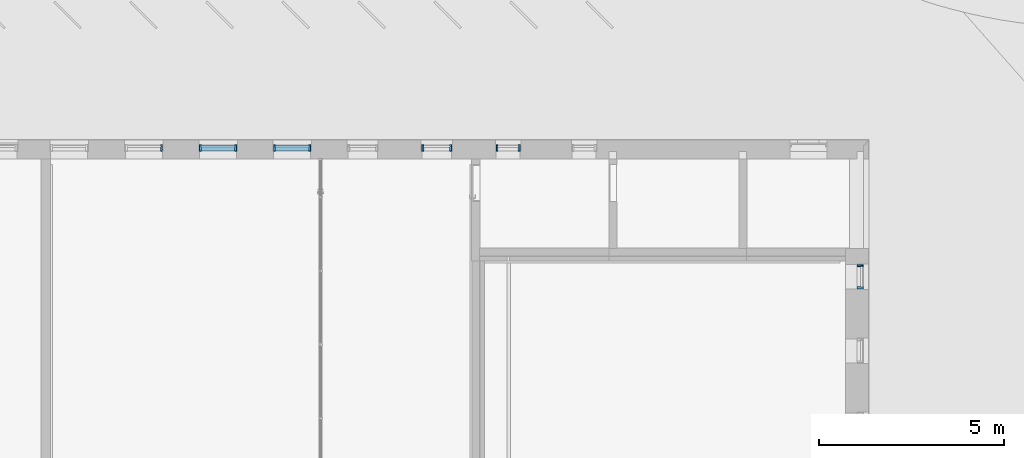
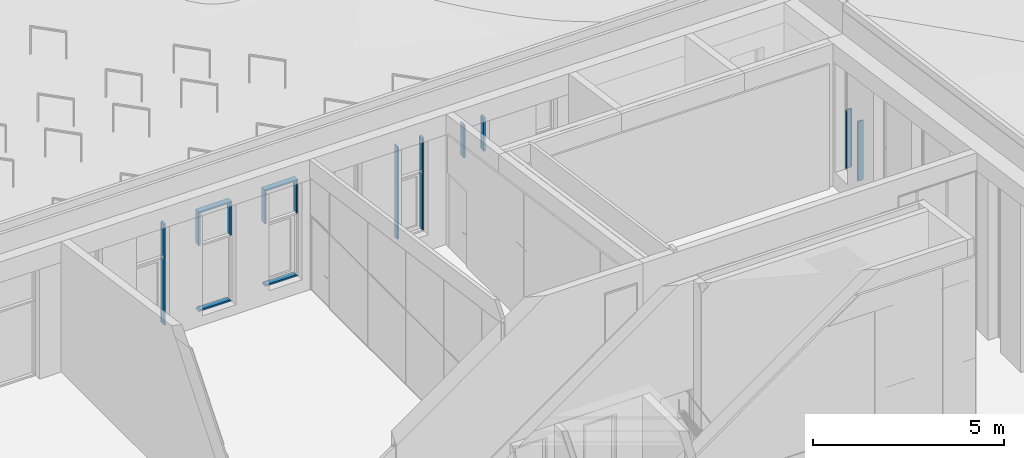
# One storey, part 21 of 246: 18 members, 6 elements without a shape of their own.
"""IFC2X3 building model written with IfcOpenShell, lengths in millimetres."""

from ifc_helpers import new_model, entity, si_unit, converted_unit, derived_unit, money_unit, direction, frame, origin_with_axes, place, context, subcontext, project, spatial, faceted_brep, source, transform, mapped, material, type_object, element, aggregate, save


model = new_model("IFC2X3")

# Units and contexts
model_context = context("Model", 3, precision=0.01, world=origin_with_axes(), true_north=direction((0.0, 1.0)))
body_context = subcontext(model_context, "Body", "Model", "MODEL_VIEW")
ifc_project = project(units=[si_unit("LENGTHUNIT", "METRE", prefix="MILLI"), si_unit("AREAUNIT", "SQUARE_METRE"), si_unit("VOLUMEUNIT", "CUBIC_METRE"), converted_unit("PLANEANGLEUNIT", "DEGREE", entity("IfcPlaneAngleMeasure", 0.0174532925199), si_unit("PLANEANGLEUNIT", "RADIAN"), dimensions=[0, 0, 0, 0, 0, 0, 0]), si_unit("SOLIDANGLEUNIT", "STERADIAN"), money_unit("EUR"), converted_unit("TIMEUNIT", "Year", entity("IfcTimeMeasure", 31556926.0), si_unit("TIMEUNIT", "SECOND"), dimensions=[0, 0, 1, 0, 0, 0, 0]), si_unit("MASSUNIT", "GRAM", prefix="KILO"), si_unit("THERMODYNAMICTEMPERATUREUNIT", "DEGREE_CELSIUS"), si_unit("LUMINOUSINTENSITYUNIT", "LUMEN"), si_unit("ENERGYUNIT", "JOULE", prefix="MEGA"), derived_unit("THERMALCONDUCTANCEUNIT", [(si_unit("POWERUNIT", "WATT"), 1), (si_unit("LENGTHUNIT", "METRE"), -1), (si_unit("THERMODYNAMICTEMPERATUREUNIT", "KELVIN"), -1)]), derived_unit("SPECIFICHEATCAPACITYUNIT", [(si_unit("ENERGYUNIT", "JOULE"), 1), (si_unit("MASSUNIT", "GRAM", prefix="KILO"), -1), (si_unit("THERMODYNAMICTEMPERATUREUNIT", "KELVIN"), -1)]), derived_unit("MASSDENSITYUNIT", [(si_unit("MASSUNIT", "GRAM", prefix="KILO"), 1), (si_unit("VOLUMEUNIT", "CUBIC_METRE"), -1)])], contexts=[model_context])

# Site, building, storey
site_placement = place(None, origin_with_axes())
site = spatial("IfcSite", under=ifc_project, at=site_placement, Name="L.Koidula tn 11b", CompositionType="ELEMENT")
building_placement = place(site_placement, origin_with_axes())
building = spatial("IfcBuilding", under=site, at=building_placement, Name="Rakvere Riigigümnaasium", CompositionType="ELEMENT")
storey_placement = place(building_placement, origin_with_axes())
storey = spatial("IfcBuildingStorey", under=building, at=storey_placement, Name="1.korrus 0,00", CompositionType="ELEMENT", Elevation=0.0)

# Curtain wall, member
curtain_wall_type = type_object("IfcCurtainWallType", Name="Curtain Wall Type", PredefinedType="NOTDEFINED")
curtain_wall_1_placement = place(storey_placement, frame((35969.5353612, 71934.4519938, 500.0), z_axis=(0.0, 0.0, 1.0), x_axis=(1.0, 0.0, 0.0)))
curtain_wall_1 = element("IfcCurtainWall", 1, at=curtain_wall_1_placement, inside=storey, type_object=curtain_wall_type, Name="KLF-08-08")
ifc_material = material(Name="Alumiiniumprofiil (RAL 7021)")
member_type = type_object("IfcMemberType", Name="Boundary Frame 50 x 170", PredefinedType="MULLION")
shared_shape_1 = source(origin_with_axes(), body_context, "Body", "Brep", [
    faceted_brep([(-37.0, -26.0, 1042.99989822), (-50.0, -26.0, 1029.99989822), (-50.0, -124.0, 1029.99989822), (0.0, -124.0, 1079.99989822), (0.0, 46.0, 1079.99989822), (-50.0, 46.0, 1029.99989822), (-50.0, 26.0, 1029.99989822), (-37.0, 26.0, 1042.99989822), (-37.0, -26.0, -2.46072051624e-08), (-50.0, -26.0, -2.46072051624e-08), (-50.0, -124.0, -2.46072051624e-08), (0.0, -124.0, -2.46072051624e-08), (0.0, 46.0, -2.46072051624e-08), (-50.0, 46.0, -2.46072051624e-08), (-50.0, 26.0, -2.46072051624e-08), (-37.0, 26.0, -2.46072051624e-08)], [[[0, 1, 2, 3, 4, 5, 6, 7]], [[0, 8, 9, 1]], [[9, 10, 2, 1]], [[10, 11, 3, 2]], [[11, 12, 4, 3]], [[12, 13, 5, 4]], [[6, 5, 13, 14]], [[14, 15, 7, 6]], [[7, 15, 8, 0]], [[8, 15, 14, 13, 12, 11, 10, 9]]]),
])
member_1_placement = place(curtain_wall_1_placement, frame((400.000059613, 0.0, 1900.00011279), z_axis=(0.0, 0.0, 1.0), x_axis=(-1.0, 0.0, 0.0)))
member_1 = element("IfcMember", 2, at=member_1_placement, type_object=member_type, material=ifc_material, Name="KLF-08-44-Profiilid", ObjectType="MULLION", context=body_context, shape_type="MappedRepresentation", body=[
    mapped(shared_shape_1, transform((0.0, 0.0, 0.0), x_axis=(-1.0, 0.0, 0.0), y_axis=(0.0, -1.0, 0.0), z_axis=(0.0, 0.0, 1.0))),
])

curtain_wall_2_placement = place(storey_placement, frame((32069.763958, 71934.4519938, 400.0), z_axis=(0.0, 0.0, 1.0), x_axis=(1.0, 0.0, 0.0)))
curtain_wall_2 = element("IfcCurtainWall", 3, at=curtain_wall_2_placement, inside=storey, type_object=curtain_wall_type, Name="KLF-08-06")
member_2_placement = place(curtain_wall_2_placement, frame((500.007695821, 0.0, 2000.00007713), z_axis=(0.0, 0.0, 1.0), x_axis=(-1.0, 0.0, 0.0)))
member_2 = element("IfcMember", 4, at=member_2_placement, type_object=member_type, material=ifc_material, Name="KLF-08-62-Profiilid", ObjectType="MULLION", context=body_context, shape_type="MappedRepresentation", body=[
    mapped(shared_shape_1, transform((0.0, 0.0, 0.0), x_axis=(-1.0, 0.0, 0.0), y_axis=(0.0, -1.0, 0.0), z_axis=(0.0, 0.0, 1.0))),
])

curtain_wall_3_placement = place(storey_placement, frame((28069.5354311, 71934.4519938, 200.0), z_axis=(0.0, 0.0, 1.0), x_axis=(1.0, 0.0, 0.0)))
curtain_wall_3 = element("IfcCurtainWall", 5, at=curtain_wall_3_placement, inside=storey, type_object=curtain_wall_type, Name="KLF-08-04")
member_3_placement = place(curtain_wall_3_placement, frame((500.000022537, 0.0, 2200.00007713), z_axis=(0.0, 0.0, 1.0), x_axis=(-1.0, 0.0, 0.0)))
member_3 = element("IfcMember", 6, at=member_3_placement, type_object=member_type, material=ifc_material, Name="KLF-08-45-Profiilid", ObjectType="MULLION", context=body_context, shape_type="MappedRepresentation", body=[
    mapped(shared_shape_1, transform((0.0, 0.0, 0.0), x_axis=(-1.0, 0.0, 0.0), y_axis=(0.0, -1.0, 0.0), z_axis=(0.0, 0.0, 1.0))),
])

curtain_wall_4_placement = place(storey_placement, frame((30069.5242165, 71934.4519938, 300.0), z_axis=(0.0, 0.0, 1.0), x_axis=(1.0, 0.0, 0.0)))
curtain_wall_4 = element("IfcCurtainWall", 7, at=curtain_wall_4_placement, inside=storey, type_object=curtain_wall_type, Name="KLF-08-05")
member_4_placement = place(curtain_wall_4_placement, frame((499.988788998, 0.0, 2100.00007713), z_axis=(0.0, 0.0, 1.0), x_axis=(-1.0, 0.0, 0.0)))
member_4 = element("IfcMember", 8, at=member_4_placement, type_object=member_type, material=ifc_material, Name="KLF-08-82-Profiilid", ObjectType="MULLION", context=body_context, shape_type="MappedRepresentation", body=[
    mapped(shared_shape_1, transform((0.0, 0.0, 0.0), x_axis=(-1.0, 0.0, 0.0), y_axis=(0.0, -1.0, 0.0), z_axis=(0.0, 0.0, 1.0))),
])

curtain_wall_5_placement = place(storey_placement, frame((37894.5353831, 71934.4519938, 550.0), z_axis=(0.0, 0.0, 1.0), x_axis=(1.0, 0.0, 0.0)))
curtain_wall_5 = element("IfcCurtainWall", 9, at=curtain_wall_5_placement, inside=storey, type_object=curtain_wall_type, Name="KLF-08-09")
member_5_placement = place(curtain_wall_5_placement, frame((325.000084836, 0.0, 1850.00012484), z_axis=(0.0, 0.0, 1.0), x_axis=(-1.0, 0.0, 0.0)))
member_5 = element("IfcMember", 10, at=member_5_placement, type_object=member_type, material=ifc_material, Name="KLF-08-45-Profiilid", ObjectType="MULLION", context=body_context, shape_type="MappedRepresentation", body=[
    mapped(shared_shape_1, transform((0.0, 0.0, 0.0), x_axis=(-1.0, 0.0, 0.0), y_axis=(0.0, -1.0, 0.0), z_axis=(0.0, 0.0, 1.0))),
])

# Member
shared_shape_2 = source(origin_with_axes(), body_context, "Body", "Brep", [
    faceted_brep([(37.0, -26.0, 1043.00003141), (37.0, 26.0, 1043.00003141), (50.0, 26.0, 1030.00003141), (50.0, 46.0, 1030.00003141), (0.0, 46.0, 1080.00003141), (0.0, -124.0, 1080.00003141), (50.0, -124.0, 1030.00003141), (50.0, -26.0, 1030.00003141), (37.0, -26.0, 0.0), (37.0, 26.0, 0.0), (50.0, 26.0, 0.0), (50.0, 46.0, 0.0), (0.0, 46.0, 0.0), (0.0, -124.0, 0.0), (50.0, -124.0, 0.0), (50.0, -26.0, 0.0)], [[[0, 1, 2, 3, 4, 5, 6, 7]], [[1, 0, 8, 9]], [[10, 2, 1, 9]], [[2, 10, 11, 3]], [[12, 4, 3, 11]], [[13, 5, 4, 12]], [[14, 6, 5, 13]], [[15, 7, 6, 14]], [[0, 7, 15, 8]], [[8, 15, 14, 13, 12, 11, 10, 9]]]),
])
member_6_placement = place(curtain_wall_4_placement, frame((-499.988788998, 0.0, 2100.00007713), z_axis=(0.0, 0.0, 1.0), x_axis=(-1.0, 0.0, 0.0)))
member_6 = element("IfcMember", 11, at=member_6_placement, type_object=member_type, material=ifc_material, Name="KLF-08-84-Profiilid", ObjectType="MULLION", context=body_context, shape_type="MappedRepresentation", body=[
    mapped(shared_shape_2, transform((0.0, 0.0, 0.0), x_axis=(-1.0, 0.0, 0.0), y_axis=(0.0, -1.0, 0.0), z_axis=(0.0, 0.0, 1.0))),
])

shared_shape_3 = source(origin_with_axes(), body_context, "Body", "Brep", [
    faceted_brep([(-37.0, -26.0, 1079.99989843), (-50.0, -26.0, 1079.99989843), (-50.0, -124.0, 1079.99989843), (0.0, -124.0, 1079.99989843), (0.0, 46.0, 1079.99989843), (-50.0, 46.0, 1079.99989843), (-50.0, 26.0, 1079.99989843), (-37.0, 26.0, 1079.99989843), (-37.0, -26.0, 36.9999996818), (-50.0, -26.0, 49.99999957), (-50.0, -124.0, 49.99999957), (0.0, -124.0, 0.0), (0.0, 46.0, 0.0), (-50.0, 46.0, 49.99999957), (-50.0, 26.0, 49.99999957), (-37.0, 26.0, 36.9999996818)], [[[0, 1, 2, 3, 4, 5, 6, 7]], [[0, 8, 9, 1]], [[9, 10, 2, 1]], [[2, 10, 11, 3]], [[3, 11, 12, 4]], [[4, 12, 13, 5]], [[6, 5, 13, 14]], [[14, 15, 7, 6]], [[7, 15, 8, 0]], [[8, 15, 14, 13, 12, 11, 10, 9]]]),
])
member_7_placement = place(curtain_wall_1_placement, frame((-400.000054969, 0.0, 2980.00001101), z_axis=(-8.60067982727e-09, 0.0, -1.0), x_axis=(1.0, 0.0, -8.60067982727e-09)))
member_7 = element("IfcMember", 12, at=member_7_placement, type_object=member_type, material=ifc_material, Name="KLF-08-46-Profiilid", ObjectType="MULLION", context=body_context, shape_type="MappedRepresentation", body=[
    mapped(shared_shape_3, transform((0.0, 0.0, 0.0), x_axis=(-1.0, 0.0, 8.6006797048e-09), y_axis=(0.0, -1.0, 0.0), z_axis=(8.6006797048e-09, 0.0, 1.0))),
])

member_8_placement = place(curtain_wall_2_placement, frame((-500.007699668, 0.0, 3080.00001331), z_axis=(7.12447098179e-09, 0.0, -1.0), x_axis=(1.0, 0.0, 7.12447098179e-09)))
member_8 = element("IfcMember", 13, at=member_8_placement, type_object=member_type, material=ifc_material, Name="KLF-08-64-Profiilid", ObjectType="MULLION", context=body_context, shape_type="MappedRepresentation", body=[
    mapped(shared_shape_3, transform((0.0, 0.0, 0.0), x_axis=(-1.0, 0.0, -7.12447110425e-09), y_axis=(0.0, -1.0, 0.0), z_axis=(-7.12447110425e-09, 0.0, 1.0))),
])

member_9_placement = place(curtain_wall_5_placement, frame((-325.000075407, 0.0, 2929.99988915), z_axis=(-1.74605191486e-08, 0.0, -1.0), x_axis=(1.0, 0.0, -1.74605191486e-08)))
member_9 = element("IfcMember", 14, at=member_9_placement, type_object=member_type, material=ifc_material, Name="KLF-08-47-Profiilid", ObjectType="MULLION", context=body_context, shape_type="MappedRepresentation", body=[
    mapped(shared_shape_3, transform((0.0, 0.0, 0.0), x_axis=(-1.0, 0.0, 1.74605190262e-08), y_axis=(0.0, -1.0, 0.0), z_axis=(1.74605190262e-08, 0.0, 1.0))),
])

aggregate(curtain_wall_5, [member_9, member_5])

shared_shape_4 = source(origin_with_axes(), body_context, "Body", "Brep", [
    faceted_brep([(-37.0, -26.0, 1863.00011279), (-50.0, -26.0, 1850.00011279), (-50.0, -124.0, 1850.00011279), (0.0, -124.0, 1900.00011279), (0.0, 46.0, 1900.00011279), (-50.0, 46.0, 1850.00011279), (-50.0, 26.0, 1850.00011279), (-37.0, 26.0, 1863.00011279), (-37.0, -26.0, -2.15017115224e-07), (-50.0, -26.0, -2.15017004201e-07), (-50.0, -124.0, -2.15017004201e-07), (0.0, -124.0, -2.15017004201e-07), (0.0, 46.0, -2.15017004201e-07), (-50.0, 46.0, -2.15017004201e-07), (-50.0, 26.0, -2.15017004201e-07), (-37.0, 26.0, -2.15017115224e-07)], [[[0, 1, 2, 3, 4, 5, 6, 7]], [[0, 8, 9, 1]], [[9, 10, 2, 1]], [[10, 11, 3, 2]], [[11, 12, 4, 3]], [[12, 13, 5, 4]], [[6, 5, 13, 14]], [[14, 15, 7, 6]], [[7, 15, 8, 0]], [[8, 15, 14, 13, 12, 11, 10, 9]]]),
])
member_10_placement = place(curtain_wall_1_placement, frame((-400.000064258, 0.0, 1900.00011279), z_axis=(0.0, 0.0, -1.0), x_axis=(1.0, 0.0, 0.0)))
member_10 = element("IfcMember", 15, at=member_10_placement, type_object=member_type, material=ifc_material, Name="KLF-08-41-Profiilid", ObjectType="MULLION", context=body_context, shape_type="MappedRepresentation", body=[
    mapped(shared_shape_4, transform((0.0, 0.0, 0.0), x_axis=(-1.0, 0.0, 0.0), y_axis=(0.0, -1.0, 0.0), z_axis=(0.0, 0.0, 1.0))),
])

# Curtain wall, member
curtain_wall_6_placement = place(storey_placement, frame((47433.9999935, 68420.4546651, 500.0), z_axis=(0.0, 0.0, 1.0), x_axis=(1.0, 0.0, 0.0)))
curtain_wall_6 = element("IfcCurtainWall", 16, at=curtain_wall_6_placement, inside=storey, type_object=curtain_wall_type, Name="KLF-07-14")
member_11_placement = place(curtain_wall_6_placement, frame((0.0, 325.000053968, 1900.0), z_axis=(0.0, 2.7834995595e-08, -1.0), x_axis=(0.0, -1.0, -2.7834995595e-08)))
member_11 = element("IfcMember", 17, at=member_11_placement, type_object=member_type, material=ifc_material, Name="KLF-07-91-Profiilid", ObjectType="MULLION", context=body_context, shape_type="MappedRepresentation", body=[
    mapped(shared_shape_4, transform((0.0, 0.0, 0.0), x_axis=(-1.0, 0.0, 2.78349954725e-08), y_axis=(0.0, -1.0, 0.0), z_axis=(2.78349954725e-08, 0.0, 1.0))),
])

# Member
shared_shape_5 = source(origin_with_axes(), body_context, "Body", "Brep", [
    faceted_brep([(-37.0, -26.0, 1900.00011282), (-50.0, -26.0, 1900.00011282), (-50.0, -124.0, 1900.00011282), (0.0, -124.0, 1900.00011282), (0.0, 46.0, 1900.00011282), (-50.0, 46.0, 1900.00011282), (-50.0, 26.0, 1900.00011282), (-37.0, 26.0, 1900.00011282), (-37.0, -26.0, 37.0000000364), (-50.0, -26.0, 50.0000000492), (-50.0, -124.0, 50.0000000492), (0.0, -124.0, 0.0), (0.0, 46.0, 0.0), (-50.0, 46.0, 50.0000000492), (-50.0, 26.0, 50.0000000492), (-37.0, 26.0, 37.0000000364)], [[[0, 1, 2, 3, 4, 5, 6, 7]], [[0, 8, 9, 1]], [[9, 10, 2, 1]], [[2, 10, 11, 3]], [[3, 11, 12, 4]], [[4, 12, 13, 5]], [[6, 5, 13, 14]], [[14, 15, 7, 6]], [[7, 15, 8, 0]], [[8, 15, 14, 13, 12, 11, 10, 9]]]),
])
member_12_placement = place(curtain_wall_1_placement, frame((400.000061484, 0.0, 0.0), z_axis=(-9.84288615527e-10, 0.0, 1.0), x_axis=(-1.0, 0.0, -9.84288615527e-10)))
member_12 = element("IfcMember", 18, at=member_12_placement, type_object=member_type, material=ifc_material, Name="KLF-08-43-Profiilid", ObjectType="MULLION", context=body_context, shape_type="MappedRepresentation", body=[
    mapped(shared_shape_5, transform((0.0, 0.0, 0.0), x_axis=(-1.0, 0.0, -9.84288615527e-10), y_axis=(0.0, -1.0, 0.0), z_axis=(-9.84288615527e-10, 0.0, 1.0))),
])

aggregate(curtain_wall_1, [member_7, member_10, member_1, member_12])

member_13_placement = place(curtain_wall_6_placement, frame((0.0, -325.000397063, 0.0), z_axis=(0.0, 1.25084952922e-07, 1.0), x_axis=(0.0, 1.0, -1.25084952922e-07)))
member_13 = element("IfcMember", 19, at=member_13_placement, type_object=member_type, material=ifc_material, Name="KLF-07-87-Profiilid", ObjectType="MULLION", context=body_context, shape_type="MappedRepresentation", body=[
    mapped(shared_shape_5, transform((0.0, 0.0, 0.0), x_axis=(-1.0, 0.0, -1.25084952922e-07), y_axis=(0.0, -1.0, 0.0), z_axis=(-1.25084952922e-07, 0.0, 1.0))),
])

aggregate(curtain_wall_6, [member_13, member_11])

shared_shape_6 = source(origin_with_axes(), body_context, "Body", "Brep", [
    faceted_brep([(-37.0, -26.0, 963.015395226), (-50.0, -26.0, 950.015395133), (-50.0, -124.0, 950.015395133), (0.0, -124.0, 1000.01539549), (0.0, 46.0, 1000.01539549), (-50.0, 46.0, 950.015395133), (-50.0, 26.0, 950.015395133), (-37.0, 26.0, 963.015395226), (-37.0, -26.0, 37.0), (-50.0, -26.0, 50.0), (-50.0, -124.0, 50.0), (0.0, -124.0, 0.0), (0.0, 46.0, 0.0), (-50.0, 46.0, 50.0), (-50.0, 26.0, 50.0), (-37.0, 26.0, 37.0)], [[[0, 1, 2, 3, 4, 5, 6, 7]], [[0, 8, 9, 1]], [[9, 10, 2, 1]], [[2, 10, 11, 3]], [[3, 11, 12, 4]], [[4, 12, 13, 5]], [[6, 5, 13, 14]], [[14, 15, 7, 6]], [[7, 15, 8, 0]], [[8, 15, 14, 13, 12, 11, 10, 9]]]),
])
member_14_placement = place(curtain_wall_2_placement, frame((500.007695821, 0.0, 3080.00001331), z_axis=(-1.0, 0.0, 0.0), x_axis=(0.0, 0.0, -1.0)))
member_14 = element("IfcMember", 20, at=member_14_placement, type_object=member_type, material=ifc_material, Name="KLF-08-63-Profiilid", ObjectType="MULLION", context=body_context, shape_type="MappedRepresentation", body=[
    mapped(shared_shape_6, transform((0.0, 0.0, 0.0), x_axis=(-1.0, 0.0, 0.0), y_axis=(0.0, -1.0, 0.0), z_axis=(0.0, 0.0, 1.0))),
])

member_15_placement = place(curtain_wall_2_placement, frame((-500.007691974, 0.0, 0.0), z_axis=(1.0, 0.0, 0.0), x_axis=(0.0, 0.0, 1.0)))
member_15 = element("IfcMember", 21, at=member_15_placement, type_object=member_type, material=ifc_material, Name="KLF-08-60-Profiilid", ObjectType="MULLION", context=body_context, shape_type="MappedRepresentation", body=[
    mapped(shared_shape_6, transform((0.0, 0.0, 0.0), x_axis=(-1.0, 0.0, 0.0), y_axis=(0.0, -1.0, 0.0), z_axis=(0.0, 0.0, 1.0))),
])

aggregate(curtain_wall_2, [member_14, member_8, member_2, member_15])

shared_shape_7 = source(origin_with_axes(), body_context, "Body", "Brep", [
    faceted_brep([(-37.0, -26.0, 2200.00000124), (-50.0, -26.0, 2200.00000124), (-50.0, -124.0, 2200.00000124), (0.0, -124.0, 2200.00000124), (0.0, 46.0, 2200.00000124), (-50.0, 46.0, 2200.00000124), (-50.0, 26.0, 2200.00000124), (-37.0, 26.0, 2200.00000124), (-37.0, -26.0, 37.0000020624), (-50.0, -26.0, 50.000002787), (-50.0, -124.0, 50.000002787), (0.0, -124.0, 0.0), (0.0, 46.0, 0.0), (-50.0, 46.0, 50.000002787), (-50.0, 26.0, 50.000002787), (-37.0, 26.0, 37.0000020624)], [[[0, 1, 2, 3, 4, 5, 6, 7]], [[0, 8, 9, 1]], [[9, 10, 2, 1]], [[2, 10, 11, 3]], [[3, 11, 12, 4]], [[4, 12, 13, 5]], [[6, 5, 13, 14]], [[14, 15, 7, 6]], [[7, 15, 8, 0]], [[8, 15, 14, 13, 12, 11, 10, 9]]]),
])
member_16_placement = place(curtain_wall_3_placement, frame((499.999998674, 0.0, 0.0), z_axis=(1.08471321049e-08, 0.0, 1.0), x_axis=(-1.0, 0.0, 1.08471321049e-08)))
member_16 = element("IfcMember", 22, at=member_16_placement, type_object=member_type, material=ifc_material, Name="KLF-08-44-Profiilid", ObjectType="MULLION", context=body_context, shape_type="MappedRepresentation", body=[
    mapped(shared_shape_7, transform((0.0, 0.0, 0.0), x_axis=(-1.0, 0.0, 1.08471321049e-08), y_axis=(0.0, -1.0, 0.0), z_axis=(1.08471321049e-08, 0.0, 1.0))),
])

aggregate(curtain_wall_3, [member_3, member_16])

shared_shape_8 = source(origin_with_axes(), body_context, "Body", "Brep", [
    faceted_brep([(-37.0, -26.0, 962.977577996), (-50.0, -26.0, 949.977577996), (-50.0, -124.0, 949.977577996), (0.0, -124.0, 999.977577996), (0.0, 46.0, 999.977577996), (-50.0, 46.0, 949.977577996), (-50.0, 26.0, 949.977577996), (-37.0, 26.0, 962.977577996), (-37.0, -26.0, 37.0), (-50.0, -26.0, 50.0), (-50.0, -124.0, 50.0), (0.0, -124.0, 0.0), (0.0, 46.0, 0.0), (-50.0, 46.0, 50.0), (-50.0, 26.0, 50.0), (-37.0, 26.0, 37.0)], [[[0, 1, 2, 3, 4, 5, 6, 7]], [[0, 8, 9, 1]], [[9, 10, 2, 1]], [[2, 10, 11, 3]], [[3, 11, 12, 4]], [[4, 12, 13, 5]], [[6, 5, 13, 14]], [[14, 15, 7, 6]], [[7, 15, 8, 0]], [[8, 15, 14, 13, 12, 11, 10, 9]]]),
])
member_17_placement = place(curtain_wall_4_placement, frame((499.988788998, 0.0, 3179.99999168), z_axis=(-1.0, 0.0, 0.0), x_axis=(0.0, 0.0, -1.0)))
member_17 = element("IfcMember", 23, at=member_17_placement, type_object=member_type, material=ifc_material, Name="KLF-08-83-Profiilid", ObjectType="MULLION", context=body_context, shape_type="MappedRepresentation", body=[
    mapped(shared_shape_8, transform((0.0, 0.0, 0.0), x_axis=(-1.0, 0.0, 0.0), y_axis=(0.0, -1.0, 0.0), z_axis=(0.0, 0.0, 1.0))),
])

member_18_placement = place(curtain_wall_4_placement, frame((-499.988788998, 0.0, 0.0), z_axis=(1.0, 0.0, 0.0), x_axis=(0.0, 0.0, 1.0)))
member_18 = element("IfcMember", 24, at=member_18_placement, type_object=member_type, material=ifc_material, Name="KLF-08-80-Profiilid", ObjectType="MULLION", context=body_context, shape_type="MappedRepresentation", body=[
    mapped(shared_shape_8, transform((0.0, 0.0, 0.0), x_axis=(-1.0, 0.0, 0.0), y_axis=(0.0, -1.0, 0.0), z_axis=(0.0, 0.0, 1.0))),
])

aggregate(curtain_wall_4, [member_6, member_17, member_4, member_18])

save(model, "model.ifc")
